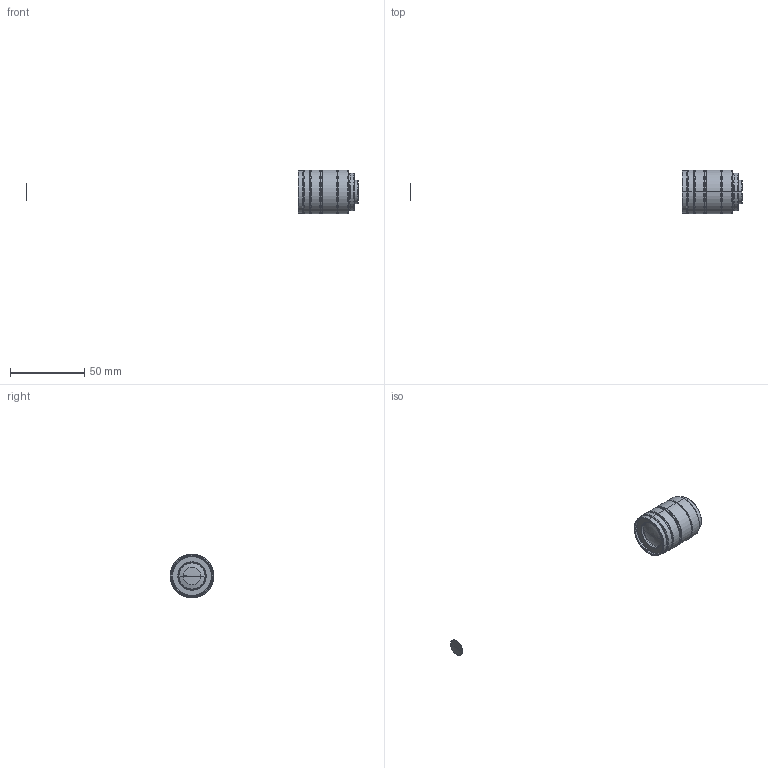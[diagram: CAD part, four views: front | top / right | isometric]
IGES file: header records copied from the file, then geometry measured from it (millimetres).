
Start section: SolidWorks IGES file using analytic representation for surfaces
Bounding box: 223.95 x 29.5 x 29.5 mm (x, y, z)
Surface area: 5841 mm2 (no closed solid volume)
Topology: 0 solids, 0 shells, 89 faces, 1904 edges, 1902 vertices
Faces by surface type: revolution 74, bspline 15
